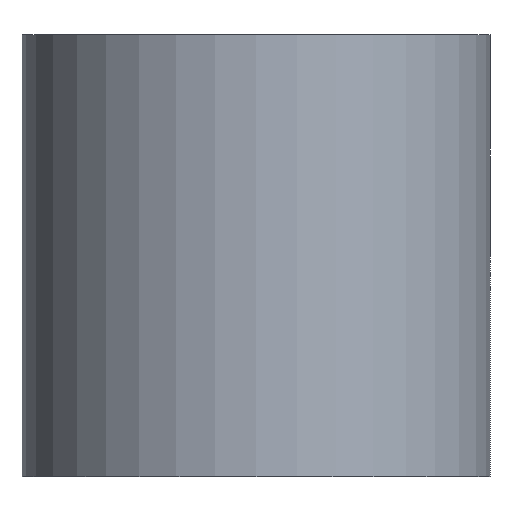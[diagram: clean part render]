
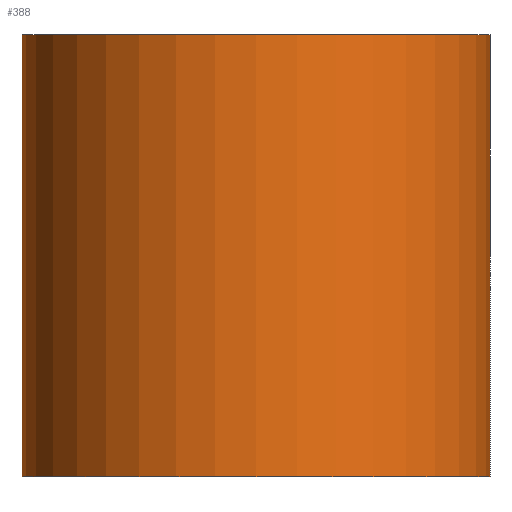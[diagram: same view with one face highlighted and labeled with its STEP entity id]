
A CAD part, front view. The second image highlights one B-rep face of the part: STEP entity #388.
In plain terms, the highlighted cylindrical face has radius 9 mm (diameter 18 mm), a full revolution.
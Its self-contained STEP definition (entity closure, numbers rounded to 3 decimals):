
#278=CARTESIAN_POINT('',(0.0,0.0,0.0));
#279=DIRECTION('',(0.0,0.0,1.0));
#280=DIRECTION('',(-1.0,0.0,0.0));
#281=AXIS2_PLACEMENT_3D('',#278,#279,#280);
#282=CYLINDRICAL_SURFACE('',#281,9.0);
#283=CARTESIAN_POINT('',(9.0,0.,8.5));
#284=VERTEX_POINT('',#283);
#285=CARTESIAN_POINT('',(0.0,0.0,8.5));
#286=DIRECTION('',(0.0,0.0,-1.0));
#287=DIRECTION('',(-1.0,0.0,0.0));
#288=AXIS2_PLACEMENT_3D('',#285,#286,#287);
#289=CIRCLE('',#288,9.0);
#290=EDGE_CURVE('',#284,#284,#289,.T.);
#291=ORIENTED_EDGE('',*,*,#290,.T.);
#292=EDGE_LOOP('',(#291));
#293=FACE_OUTER_BOUND('',#292,.T.);
#294=CARTESIAN_POINT('',(9.0,0.,-8.5));
#295=VERTEX_POINT('',#294);
#296=CARTESIAN_POINT('',(0.0,0.0,-8.5));
#297=DIRECTION('',(0.0,0.0,1.0));
#298=DIRECTION('',(-1.0,0.0,0.0));
#299=AXIS2_PLACEMENT_3D('',#296,#297,#298);
#300=CIRCLE('',#299,9.0);
#301=EDGE_CURVE('',#295,#295,#300,.T.);
#302=ORIENTED_EDGE('',*,*,#301,.T.);
#303=EDGE_LOOP('',(#302));
#304=FACE_BOUND('',#303,.T.);
#305=CARTESIAN_POINT('',(-6.,6.708,0.0));
#306=VERTEX_POINT('',#305);
#307=CARTESIAN_POINT('',(-6.,6.708,0.0));
#308=CARTESIAN_POINT('',(-6.,6.708,0.558));
#309=CARTESIAN_POINT('',(-5.92,6.782,1.127));
#310=CARTESIAN_POINT('',(-5.763,6.913,1.671));
#311=CARTESIAN_POINT('',(-5.545,7.095,2.422));
#312=CARTESIAN_POINT('',(-5.178,7.381,3.122));
#313=CARTESIAN_POINT('',(-4.716,7.665,3.709));
#314=CARTESIAN_POINT('',(-4.573,7.753,3.891));
#315=CARTESIAN_POINT('',(-4.422,7.841,4.061));
#316=CARTESIAN_POINT('',(-4.265,7.925,4.22));
#317=CARTESIAN_POINT('',(-4.107,8.01,4.38));
#318=CARTESIAN_POINT('',(-3.938,8.095,4.533));
#319=CARTESIAN_POINT('',(-3.757,8.178,4.678));
#320=CARTESIAN_POINT('',(-3.246,8.413,5.088));
#321=CARTESIAN_POINT('',(-2.642,8.63,5.431));
#322=CARTESIAN_POINT('',(-1.99,8.777,5.66));
#323=CARTESIAN_POINT('',(-1.518,8.884,5.826));
#324=CARTESIAN_POINT('',(-1.022,8.955,5.933));
#325=CARTESIAN_POINT('',(-0.53,8.984,5.977));
#326=CARTESIAN_POINT('',(-0.144,9.007,6.011));
#327=CARTESIAN_POINT('',(0.235,9.005,6.008));
#328=CARTESIAN_POINT('',(0.622,8.979,5.968));
#329=CARTESIAN_POINT('',(1.267,8.934,5.9));
#330=CARTESIAN_POINT('',(1.915,8.815,5.723));
#331=CARTESIAN_POINT('',(2.506,8.644,5.452));
#332=CARTESIAN_POINT('',(3.083,8.477,5.186));
#333=CARTESIAN_POINT('',(3.608,8.26,4.831));
#334=CARTESIAN_POINT('',(4.046,8.039,4.431));
#335=CARTESIAN_POINT('',(4.224,7.95,4.268));
#336=CARTESIAN_POINT('',(4.387,7.86,4.1));
#337=CARTESIAN_POINT('',(4.545,7.768,3.916));
#338=CARTESIAN_POINT('',(5.005,7.499,3.383));
#339=CARTESIAN_POINT('',(5.388,7.216,2.742));
#340=CARTESIAN_POINT('',(5.641,7.013,2.043));
#341=CARTESIAN_POINT('',(5.841,6.852,1.493));
#342=CARTESIAN_POINT('',(5.96,6.744,0.907));
#343=CARTESIAN_POINT('',(5.991,6.716,0.325));
#344=CARTESIAN_POINT('',(6.011,6.698,-0.043));
#345=CARTESIAN_POINT('',(5.997,6.711,-0.409));
#346=CARTESIAN_POINT('',(5.95,6.753,-0.777));
#347=CARTESIAN_POINT('',(5.864,6.828,-1.431));
#348=CARTESIAN_POINT('',(5.667,7.001,-2.075));
#349=CARTESIAN_POINT('',(5.378,7.216,-2.66));
#350=CARTESIAN_POINT('',(5.147,7.389,-3.128));
#351=CARTESIAN_POINT('',(4.856,7.587,-3.559));
#352=CARTESIAN_POINT('',(4.529,7.778,-3.936));
#353=CARTESIAN_POINT('',(4.334,7.891,-4.16));
#354=CARTESIAN_POINT('',(4.13,8.001,-4.363));
#355=CARTESIAN_POINT('',(3.903,8.11,-4.557));
#356=CARTESIAN_POINT('',(3.433,8.336,-4.96));
#357=CARTESIAN_POINT('',(2.874,8.552,-5.308));
#358=CARTESIAN_POINT('',(2.265,8.71,-5.556));
#359=CARTESIAN_POINT('',(1.695,8.858,-5.788));
#360=CARTESIAN_POINT('',(1.08,8.956,-5.933));
#361=CARTESIAN_POINT('',(0.472,8.988,-5.981));
#362=CARTESIAN_POINT('',(0.104,9.007,-6.01));
#363=CARTESIAN_POINT('',(-0.258,9.004,-6.006));
#364=CARTESIAN_POINT('',(-0.627,8.978,-5.967));
#365=CARTESIAN_POINT('',(-1.254,8.934,-5.901));
#366=CARTESIAN_POINT('',(-1.883,8.821,-5.732));
#367=CARTESIAN_POINT('',(-2.459,8.658,-5.473));
#368=CARTESIAN_POINT('',(-3.093,8.477,-5.188));
#369=CARTESIAN_POINT('',(-3.665,8.237,-4.794));
#370=CARTESIAN_POINT('',(-4.132,7.995,-4.351));
#371=CARTESIAN_POINT('',(-4.277,7.921,-4.213));
#372=CARTESIAN_POINT('',(-4.413,7.846,-4.071));
#373=CARTESIAN_POINT('',(-4.544,7.768,-3.918));
#374=CARTESIAN_POINT('',(-4.989,7.508,-3.402));
#375=CARTESIAN_POINT('',(-5.363,7.235,-2.785));
#376=CARTESIAN_POINT('',(-5.616,7.033,-2.113));
#377=CARTESIAN_POINT('',(-5.821,6.869,-1.566));
#378=CARTESIAN_POINT('',(-5.948,6.755,-0.982));
#379=CARTESIAN_POINT('',(-5.987,6.72,-0.401));
#380=CARTESIAN_POINT('',(-5.996,6.712,-0.267));
#381=CARTESIAN_POINT('',(-6.,6.708,-0.133));
#382=CARTESIAN_POINT('',(-6.,6.708,0.));
#383=B_SPLINE_CURVE_WITH_KNOTS('',3,(#307,#308,#309,#310,#311,#312,#313,#314,#315,#316,#317,#318,#319,#320,#321,#322,#323,#324,#325,#326,#327,#328,#329,#330,#331,#332,#333,#334,#335,#336,#337,#338,#339,#340,#341,#342,#343,#344,#345,#346,#347,#348,#349,#350,#351,#352,#353,#354,#355,#356,#357,#358,#359,#360,#361,#362,#363,#364,#365,#366,#367,#368,#369,#370,#371,#372,#373,#374,#375,#376,#377,#378,#379,#380,#381,#382),.UNSPECIFIED.,.T.,.U.,(4,3,3,3,3,3,3,3,3,3,3,3,3,3,3,3,3,3,3,3,3,3,3,3,3,4),(0.0,0.167,0.399,0.47,0.542,0.743,0.889,1.003,1.194,1.381,1.457,1.677,1.851,1.961,2.156,2.312,2.406,2.598,2.778,2.887,3.073,3.277,3.34,3.553,3.727,3.767),.UNSPECIFIED.);
#384=EDGE_CURVE('',#306,#306,#383,.T.);
#385=ORIENTED_EDGE('',*,*,#384,.F.);
#386=EDGE_LOOP('',(#385));
#387=FACE_BOUND('',#386,.T.);
#388=ADVANCED_FACE('',(#293,#304,#387),#282,.T.);
